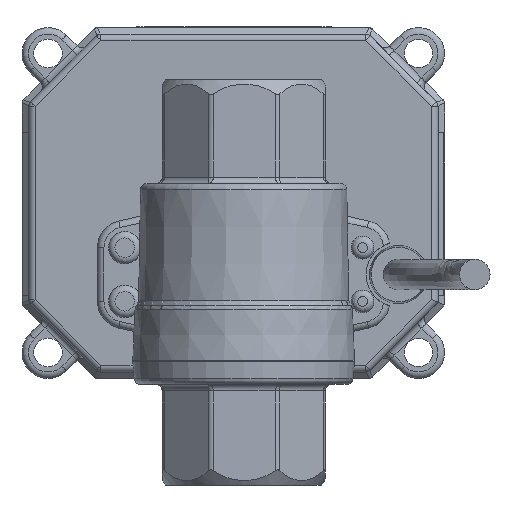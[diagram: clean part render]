
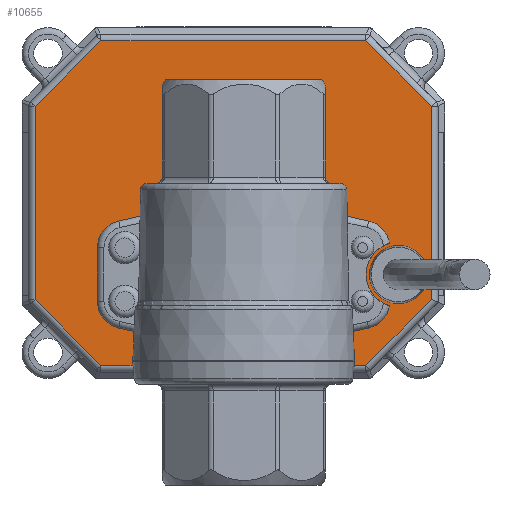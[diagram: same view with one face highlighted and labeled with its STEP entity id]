
A CAD part, front view. The second image highlights one B-rep face of the part: STEP entity #10655.
In plain terms, the highlighted planar face has unit normal (0, -1, 0).
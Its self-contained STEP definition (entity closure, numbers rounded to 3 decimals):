
#220=FACE_BOUND('',#2392,.T.);
#221=FACE_BOUND('',#2393,.T.);
#835=CIRCLE('',#11400,4.2);
#937=CIRCLE('',#11687,4.2);
#938=CIRCLE('',#11690,4.2);
#939=CIRCLE('',#11693,4.2);
#940=CIRCLE('',#11696,4.2);
#941=CIRCLE('',#11699,4.2);
#942=CIRCLE('',#11701,4.477);
#943=CIRCLE('',#11702,5.);
#1749=FACE_OUTER_BOUND('',#2391,.T.);
#2391=EDGE_LOOP('',(#9395,#9396,#9397,#9398,#9399,#9400,#9401,#9402));
#2392=EDGE_LOOP('',(#9403));
#2393=EDGE_LOOP('',(#9404,#9405,#9406,#9407,#9408,#9409,#9410,#9411,#9412,
#9413,#9414,#9415));
#3079=LINE('',#19089,#3866);
#3081=LINE('',#19097,#3868);
#3098=LINE('',#19166,#3885);
#3114=LINE('',#19233,#3901);
#3125=LINE('',#19275,#3912);
#3140=LINE('',#19339,#3927);
#3150=LINE('',#19374,#3937);
#3161=LINE('',#19426,#3948);
#3170=LINE('',#19457,#3957);
#3175=LINE('',#19468,#3962);
#3176=LINE('',#19473,#3963);
#3179=LINE('',#19481,#3966);
#3182=LINE('',#19489,#3969);
#3866=VECTOR('',#14046,10.);
#3868=VECTOR('',#14054,10.);
#3885=VECTOR('',#14143,10.);
#3901=VECTOR('',#14229,10.);
#3912=VECTOR('',#14276,10.);
#3927=VECTOR('',#14355,10.);
#3937=VECTOR('',#14397,10.);
#3948=VECTOR('',#14466,10.);
#3957=VECTOR('',#14505,10.);
#3962=VECTOR('',#14516,10.);
#3963=VECTOR('',#14523,10.);
#3966=VECTOR('',#14532,10.);
#3969=VECTOR('',#14541,10.);
#4717=VERTEX_POINT('',#18753);
#4718=VERTEX_POINT('',#18755);
#4809=VERTEX_POINT('',#19085);
#4810=VERTEX_POINT('',#19087);
#4812=VERTEX_POINT('',#19092);
#4829=VERTEX_POINT('',#19164);
#4844=VERTEX_POINT('',#19230);
#4857=VERTEX_POINT('',#19272);
#4874=VERTEX_POINT('',#19336);
#4883=VERTEX_POINT('',#19371);
#4902=VERTEX_POINT('',#19454);
#4903=VERTEX_POINT('',#19456);
#4904=VERTEX_POINT('',#19460);
#4905=VERTEX_POINT('',#19462);
#4906=VERTEX_POINT('',#19466);
#4907=VERTEX_POINT('',#19472);
#4908=VERTEX_POINT('',#19476);
#4909=VERTEX_POINT('',#19480);
#4910=VERTEX_POINT('',#19484);
#4911=VERTEX_POINT('',#19488);
#4912=VERTEX_POINT('',#19494);
#6074=EDGE_CURVE('',#4717,#4718,#835,.F.);
#6209=EDGE_CURVE('',#4810,#4809,#3079,.T.);
#6213=EDGE_CURVE('',#4809,#4812,#3081,.T.);
#6248=EDGE_CURVE('',#4829,#4810,#3098,.T.);
#6282=EDGE_CURVE('',#4844,#4829,#3114,.T.);
#6303=EDGE_CURVE('',#4857,#4844,#3125,.T.);
#6336=EDGE_CURVE('',#4874,#4857,#3140,.T.);
#6354=EDGE_CURVE('',#4883,#4874,#3150,.T.);
#6381=EDGE_CURVE('',#4812,#4883,#3161,.T.);
#6396=EDGE_CURVE('',#4903,#4902,#3170,.T.);
#6399=EDGE_CURVE('',#4904,#4905,#937,.F.);
#6402=EDGE_CURVE('',#4717,#4906,#3175,.T.);
#6403=EDGE_CURVE('',#4903,#4906,#938,.F.);
#6404=EDGE_CURVE('',#4907,#4905,#3176,.T.);
#6406=EDGE_CURVE('',#4907,#4908,#939,.F.);
#6408=EDGE_CURVE('',#4909,#4908,#3179,.T.);
#6410=EDGE_CURVE('',#4909,#4910,#940,.F.);
#6412=EDGE_CURVE('',#4911,#4910,#3182,.T.);
#6414=EDGE_CURVE('',#4911,#4902,#941,.F.);
#6415=EDGE_CURVE('',#4912,#4912,#942,.T.);
#6416=EDGE_CURVE('',#4718,#4904,#943,.T.);
#9395=ORIENTED_EDGE('',*,*,#6209,.F.);
#9396=ORIENTED_EDGE('',*,*,#6248,.F.);
#9397=ORIENTED_EDGE('',*,*,#6282,.F.);
#9398=ORIENTED_EDGE('',*,*,#6303,.F.);
#9399=ORIENTED_EDGE('',*,*,#6336,.F.);
#9400=ORIENTED_EDGE('',*,*,#6354,.F.);
#9401=ORIENTED_EDGE('',*,*,#6381,.F.);
#9402=ORIENTED_EDGE('',*,*,#6213,.F.);
#9403=ORIENTED_EDGE('',*,*,#6415,.T.);
#9404=ORIENTED_EDGE('',*,*,#6416,.F.);
#9405=ORIENTED_EDGE('',*,*,#6074,.F.);
#9406=ORIENTED_EDGE('',*,*,#6402,.T.);
#9407=ORIENTED_EDGE('',*,*,#6403,.F.);
#9408=ORIENTED_EDGE('',*,*,#6396,.T.);
#9409=ORIENTED_EDGE('',*,*,#6414,.F.);
#9410=ORIENTED_EDGE('',*,*,#6412,.T.);
#9411=ORIENTED_EDGE('',*,*,#6410,.F.);
#9412=ORIENTED_EDGE('',*,*,#6408,.T.);
#9413=ORIENTED_EDGE('',*,*,#6406,.F.);
#9414=ORIENTED_EDGE('',*,*,#6404,.T.);
#9415=ORIENTED_EDGE('',*,*,#6399,.F.);
#9651=PLANE('',#11700);
#10655=ADVANCED_FACE('',(#1749,#220,#221),#9651,.F.);
#11400=AXIS2_PLACEMENT_3D('',#18756,#13764,#13765);
#11687=AXIS2_PLACEMENT_3D('',#19463,#14510,#14511);
#11690=AXIS2_PLACEMENT_3D('',#19470,#14519,#14520);
#11693=AXIS2_PLACEMENT_3D('',#19477,#14527,#14528);
#11696=AXIS2_PLACEMENT_3D('',#19485,#14536,#14537);
#11699=AXIS2_PLACEMENT_3D('',#19492,#14545,#14546);
#11700=AXIS2_PLACEMENT_3D('',#19493,#14547,#14548);
#11701=AXIS2_PLACEMENT_3D('',#19495,#14549,#14550);
#11702=AXIS2_PLACEMENT_3D('',#19496,#14551,#14552);
#13764=DIRECTION('center_axis',(0.,1.,0.));
#13765=DIRECTION('ref_axis',(0.78,0.,-0.626));
#14046=DIRECTION('',(-0.707,0.,-0.707));
#14054=DIRECTION('',(-1.,0.,0.));
#14143=DIRECTION('',(0.,0.,-1.));
#14229=DIRECTION('',(0.707,0.,-0.707));
#14276=DIRECTION('',(1.,0.,0.));
#14355=DIRECTION('',(0.707,0.,0.707));
#14397=DIRECTION('',(0.,0.,1.));
#14466=DIRECTION('',(-0.707,0.,0.707));
#14505=DIRECTION('',(-0.976,0.,0.217));
#14510=DIRECTION('center_axis',(0.,1.,0.));
#14511=DIRECTION('ref_axis',(0.78,0.,0.626));
#14516=DIRECTION('',(-0.976,0.,-0.217));
#14519=DIRECTION('center_axis',(0.,1.,0.));
#14520=DIRECTION('ref_axis',(0.,0.,-1.));
#14523=DIRECTION('',(0.976,0.,-0.217));
#14527=DIRECTION('center_axis',(0.,1.,0.));
#14528=DIRECTION('ref_axis',(0.,0.,1.));
#14532=DIRECTION('',(0.976,0.,0.217));
#14536=DIRECTION('center_axis',(0.,1.,0.));
#14537=DIRECTION('ref_axis',(-0.78,0.,0.626));
#14541=DIRECTION('',(0.,0.,1.));
#14545=DIRECTION('center_axis',(0.,1.,0.));
#14546=DIRECTION('ref_axis',(-0.78,0.,-0.626));
#14547=DIRECTION('center_axis',(0.,1.,0.));
#14548=DIRECTION('ref_axis',(0.,0.,1.));
#14549=DIRECTION('center_axis',(0.,1.,0.));
#14550=DIRECTION('ref_axis',(1.,0.,0.));
#14551=DIRECTION('center_axis',(0.,1.,0.));
#14552=DIRECTION('ref_axis',(1.,0.,0.));
#18753=CARTESIAN_POINT('',(22.874,0.,-23.903));
#18755=CARTESIAN_POINT('',(26.108,0.,-20.477));
#18756=CARTESIAN_POINT('Origin',(21.963,0.,-19.803));
#19085=CARTESIAN_POINT('',(22.42,0.,-29.672));
#19087=CARTESIAN_POINT('',(32.562,0.,-19.53));
#19089=CARTESIAN_POINT('',(23.434,0.,-28.658));
#19092=CARTESIAN_POINT('',(-18.296,0.,-29.672));
#19097=CARTESIAN_POINT('',(-8.324,0.,-29.672));
#19164=CARTESIAN_POINT('',(32.562,0.,10.186));
#19166=CARTESIAN_POINT('',(32.562,0.,-12.308));
#19230=CARTESIAN_POINT('',(22.42,0.,20.328));
#19233=CARTESIAN_POINT('',(28.798,0.,13.95));
#19272=CARTESIAN_POINT('',(-18.296,0.,20.328));
#19275=CARTESIAN_POINT('',(12.448,0.,20.328));
#19336=CARTESIAN_POINT('',(-28.438,0.,10.186));
#19339=CARTESIAN_POINT('',(-19.31,0.,19.314));
#19371=CARTESIAN_POINT('',(-28.438,0.,-19.53));
#19374=CARTESIAN_POINT('',(-28.438,0.,2.964));
#19426=CARTESIAN_POINT('',(-24.674,0.,-23.294));
#19454=CARTESIAN_POINT('',(-15.548,0.,-23.903));
#19456=CARTESIAN_POINT('',(2.752,0.,-27.97));
#19457=CARTESIAN_POINT('',(-10.838,0.,-24.95));
#19460=CARTESIAN_POINT('',(26.108,0.,-10.867));
#19462=CARTESIAN_POINT('',(22.874,0.,-7.441));
#19463=CARTESIAN_POINT('Origin',(21.963,0.,-11.541));
#19466=CARTESIAN_POINT('',(4.574,0.,-27.97));
#19468=CARTESIAN_POINT('',(5.388,0.,-27.789));
#19470=CARTESIAN_POINT('Origin',(3.663,0.,-23.87));
#19472=CARTESIAN_POINT('',(4.574,0.,-3.375));
#19473=CARTESIAN_POINT('',(14.309,0.,-5.538));
#19476=CARTESIAN_POINT('',(2.752,0.,-3.375));
#19477=CARTESIAN_POINT('Origin',(3.663,0.,-7.475));
#19480=CARTESIAN_POINT('',(-15.548,0.,-7.441));
#19481=CARTESIAN_POINT('',(2.741,0.,-3.377));
#19484=CARTESIAN_POINT('',(-18.837,0.,-11.541));
#19485=CARTESIAN_POINT('Origin',(-14.637,0.,-11.541));
#19488=CARTESIAN_POINT('',(-18.837,0.,-19.803));
#19489=CARTESIAN_POINT('',(-18.837,0.,-6.422));
#19492=CARTESIAN_POINT('Origin',(-14.637,0.,-19.803));
#19493=CARTESIAN_POINT('Origin',(2.062,0.,-4.672));
#19494=CARTESIAN_POINT('',(23.014,0.,-15.672));
#19495=CARTESIAN_POINT('Origin',(27.491,0.,-15.672));
#19496=CARTESIAN_POINT('Origin',(27.491,0.,-15.672));
